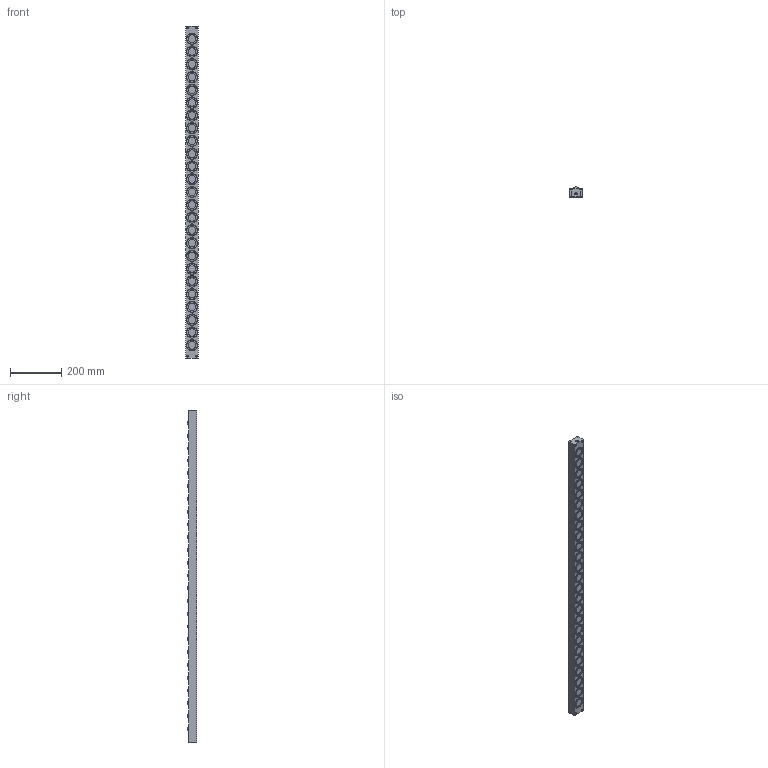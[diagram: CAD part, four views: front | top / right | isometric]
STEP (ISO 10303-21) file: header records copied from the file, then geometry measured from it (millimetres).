
FILE_DESCRIPTION (( 'STEP AP203' ), '1' );
FILE_NAME ('PVL55SL-25.STEP', '2016-02-18T07:27:36', ( '' ), ( '' ), 'SwSTEP 2.0', 'SolidWorks 2013', '' );
FILE_SCHEMA (( 'CONFIG_CONTROL_DESIGN' ));
Length unit declared in the file: millimetre
Products named in the file (1): PVL55SL-25
Bounding box: 49 x 38 x 1300 mm (x, y, z)
Volume: 2011960.4 mm3; surface area: 282410.6 mm2
Topology: 1 solids, 1 shells, 1008 faces, 2501 edges, 1674 vertices
Faces by surface type: cylinder 668, plane 286, sphere 50, cone 4
Entity records: 30958 total; most frequent: DIRECTION 6107, CARTESIAN_POINT 5182, ORIENTED_EDGE 4998, AXIS2_PLACEMENT_3D 2599, EDGE_CURVE 2499, VERTEX_POINT 1674, CIRCLE 1590, EDGE_LOOP 1197
